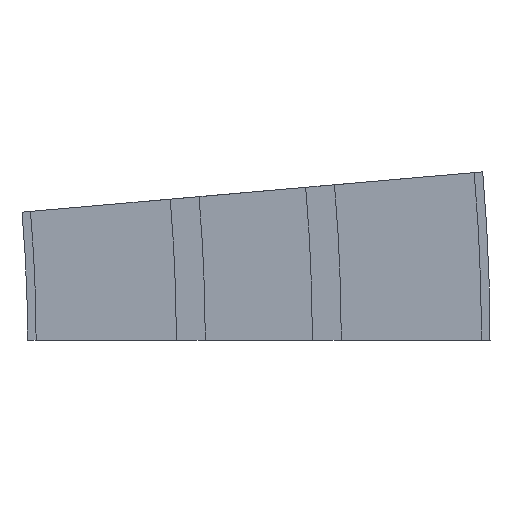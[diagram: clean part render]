
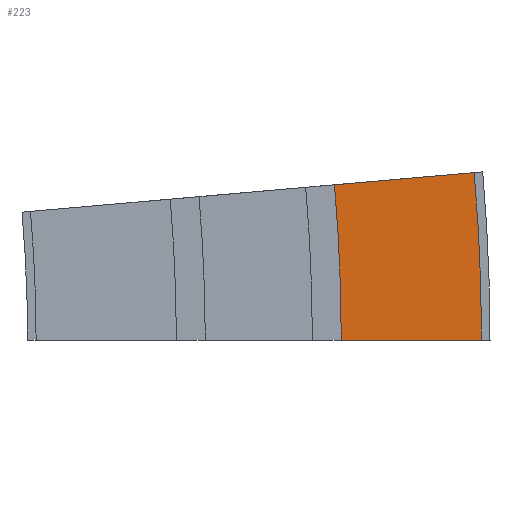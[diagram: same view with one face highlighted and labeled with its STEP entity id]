
A CAD part, left-side view. The second image highlights one B-rep face of the part: STEP entity #223.
In plain terms, the highlighted planar face has unit normal (-1, 0, 0).
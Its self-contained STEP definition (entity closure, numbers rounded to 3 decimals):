
#16 = AXIS2_PLACEMENT_3D ( 'NONE', #622, #623, #624 ) ;
#38 = EDGE_CURVE ( 'NONE', #918, #910, #999, .T. ) ;
#39 = EDGE_CURVE ( 'NONE', #904, #918, #994, .T. ) ;
#40 = EDGE_CURVE ( 'NONE', #960, #910, #985, .T. ) ;
#64 = AXIS2_PLACEMENT_3D ( 'NONE', #753, #815, #816 ) ;
#102 = EDGE_CURVE ( 'NONE', #904, #960, #459, .T. ) ;
#223 = ADVANCED_FACE ( 'NONE', ( #408 ), #284, .F. ) ;
#284 = PLANE ( 'NONE',  #705 ) ;
#285 = CARTESIAN_POINT ( 'NONE',  ( -249.5, -22.255, 45.691 ) ) ;
#286 = DIRECTION ( 'NONE',  ( 1., 0., 0. ) ) ;
#287 = DIRECTION ( 'NONE',  ( 0., 0., -1. ) ) ;
#319 = CARTESIAN_POINT ( 'NONE',  ( -249.5, -24.25, 0. ) ) ;
#408 = FACE_OUTER_BOUND ( 'NONE', #967, .T. ) ;
#459 = CIRCLE ( 'NONE', #16, 524.25 ) ;
#622 = CARTESIAN_POINT ( 'NONE',  ( -249.5, 500., 0. ) ) ;
#623 = DIRECTION ( 'NONE',  ( 1., 0., 0. ) ) ;
#624 = DIRECTION ( 'NONE',  ( 0., 0., -1. ) ) ;
#705 = AXIS2_PLACEMENT_3D ( 'NONE', #285, #286, #287 ) ;
#753 = CARTESIAN_POINT ( 'NONE',  ( -249.5, 500., 0. ) ) ;
#766 = CARTESIAN_POINT ( 'NONE',  ( -249.5, -22.255, 45.691 ) ) ;
#807 = CARTESIAN_POINT ( 'NONE',  ( -249.5, -65.5, 0. ) ) ;
#813 = CARTESIAN_POINT ( 'NONE',  ( -249.5, -63.348, 49.287 ) ) ;
#815 = DIRECTION ( 'NONE',  ( 1., 0., 0. ) ) ;
#816 = DIRECTION ( 'NONE',  ( 0., 0., -1. ) ) ;
#817 = CARTESIAN_POINT ( 'NONE',  ( -249.5, -22.255, 45.691 ) ) ;
#818 = DIRECTION ( 'NONE',  ( 0., -0.996, 0.087 ) ) ;
#819 = CARTESIAN_POINT ( 'NONE',  ( -249.5, -24.25, 0. ) ) ;
#821 = DIRECTION ( 'NONE',  ( 0., -1., 0. ) ) ;
#874 = ORIENTED_EDGE ( 'NONE', *, *, #40, .T. ) ;
#875 = ORIENTED_EDGE ( 'NONE', *, *, #102, .T. ) ;
#876 = ORIENTED_EDGE ( 'NONE', *, *, #39, .F. ) ;
#877 = ORIENTED_EDGE ( 'NONE', *, *, #38, .F. ) ;
#904 = VERTEX_POINT ( 'NONE', #766 ) ;
#910 = VERTEX_POINT ( 'NONE', #807 ) ;
#914 = VECTOR ( 'NONE', #818, 1000. ) ;
#918 = VERTEX_POINT ( 'NONE', #813 ) ;
#960 = VERTEX_POINT ( 'NONE', #319 ) ;
#967 = EDGE_LOOP ( 'NONE', ( #877, #876, #875, #874 ) ) ;
#985 = LINE ( 'NONE', #819, #1006 ) ;
#994 = LINE ( 'NONE', #817, #914 ) ;
#999 = CIRCLE ( 'NONE', #64, 565.5 ) ;
#1006 = VECTOR ( 'NONE', #821, 1000. ) ;
